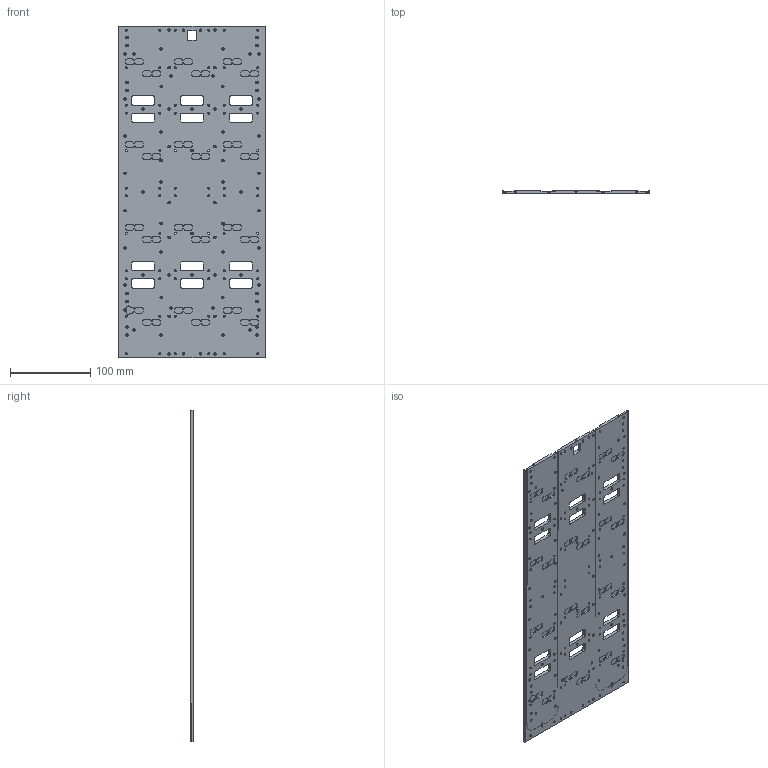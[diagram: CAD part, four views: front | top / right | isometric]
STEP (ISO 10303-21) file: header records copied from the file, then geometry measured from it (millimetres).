
FILE_DESCRIPTION(/* description */ (''),/* implementation_level */ '2;1');
FILE_NAME(/* name */ 'CMS.BTL.00000091.stp',/* time_stamp */ '2023-06-15T09:11:27+02:00',/* author */ (''),/* organization */ (''),/* preprocessor_version */ 'ST-DEVELOPER v18.102',/* originating_system */ 'SIEMENS PLM Software NX 2000',/* authorisation */ '');
FILE_SCHEMA (('AP203_CONFIGURATION_CONTROLLED_3D_DESIGN_OF_MECHANICAL_PARTS_AND_ASSEMBLIES_MIM_LF { 1 0 10303 403 2 1 2}'));
Length unit declared in the file: millimetre
Products named in the file (1): turc334C1158a8pn
Bounding box: 184 x 4 x 413.3 mm (x, y, z)
Volume: 234230.4 mm3; surface area: 166066.6 mm2
Topology: 1 solids, 1 shells, 1193 faces, 3151 edges, 2075 vertices
Faces by surface type: cylinder 543, plane 452, cone 182, torus 8, sphere 8
Full cylindrical faces by diameter (mm): 2.05 x90, 2.5 x75, 4 x2, 6 x72
Entity records: 34556 total; most frequent: DIRECTION 6219, CARTESIAN_POINT 5791, ORIENTED_EDGE 5116, EDGE_CURVE 2558, AXIS2_PLACEMENT_3D 2476, EDGE_LOOP 2089, VERTEX_POINT 1913, FACE_BOUND 1405
